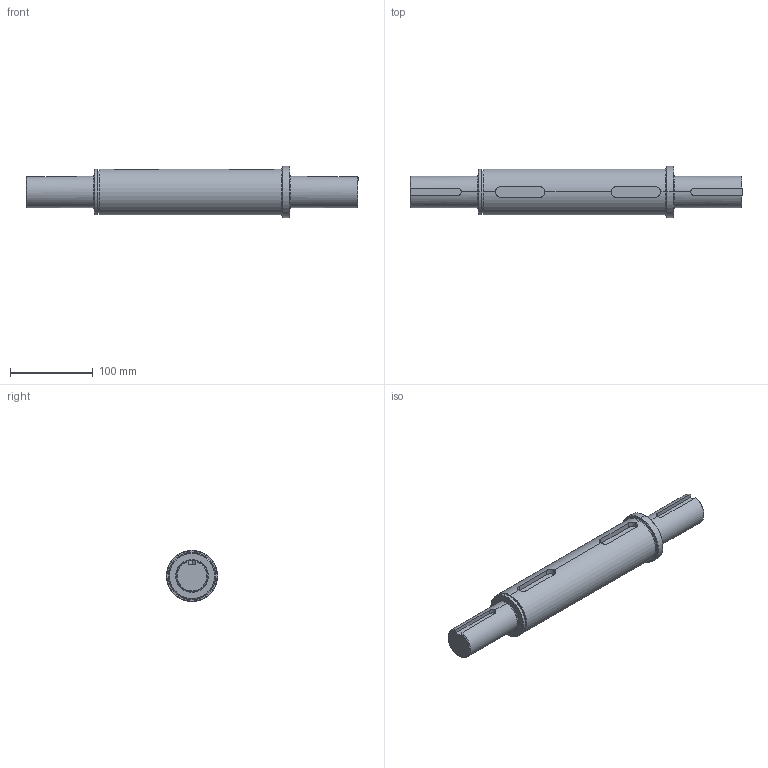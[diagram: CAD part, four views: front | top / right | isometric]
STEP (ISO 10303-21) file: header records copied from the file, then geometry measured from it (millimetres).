
FILE_DESCRIPTION (( 'STEP AP203' ), '1' );
FILE_NAME ('SSHdR325-OPS-DS-1.5.STEP', '2023-01-07T03:49:03', ( '' ), ( '' ), 'SwSTEP 2.0', 'SolidWorks 2012', '' );
FILE_SCHEMA (( 'CONFIG_CONTROL_DESIGN' ));
Length unit declared in the file: millimetre
Products named in the file (1): SSHdR325-OPS-DS-1.5
Bounding box: 402 x 62 x 62 mm (x, y, z)
Volume: 751165.6 mm3; surface area: 70296.5 mm2
Topology: 1 solids, 1 shells, 55 faces, 128 edges, 80 vertices
Faces by surface type: cylinder 21, plane 19, cone 9, torus 6
Entity records: 1857 total; most frequent: CARTESIAN_POINT 508, DIRECTION 278, ORIENTED_EDGE 256, EDGE_CURVE 128, AXIS2_PLACEMENT_3D 110, VERTEX_POINT 80, EDGE_LOOP 60, LINE 58
